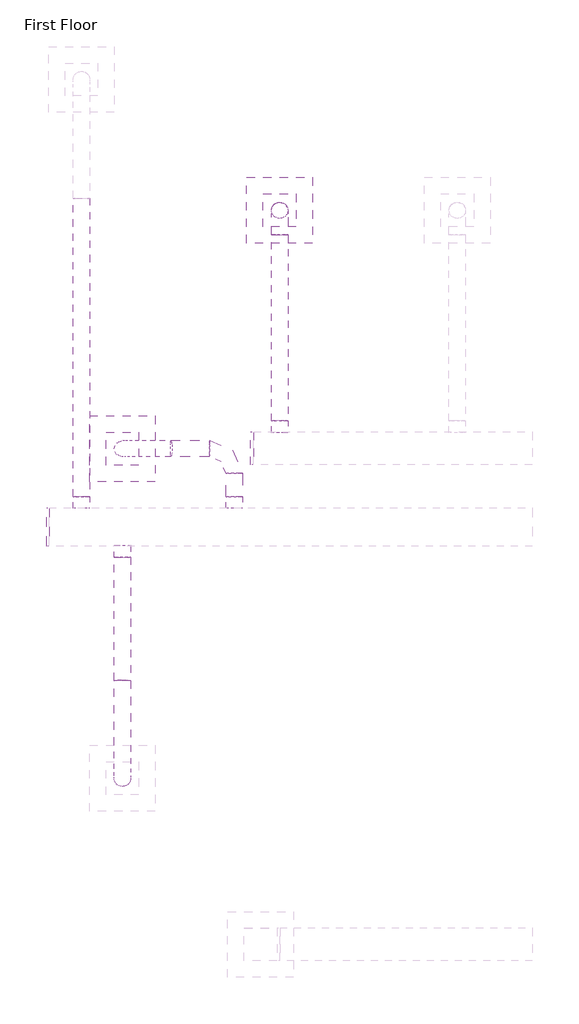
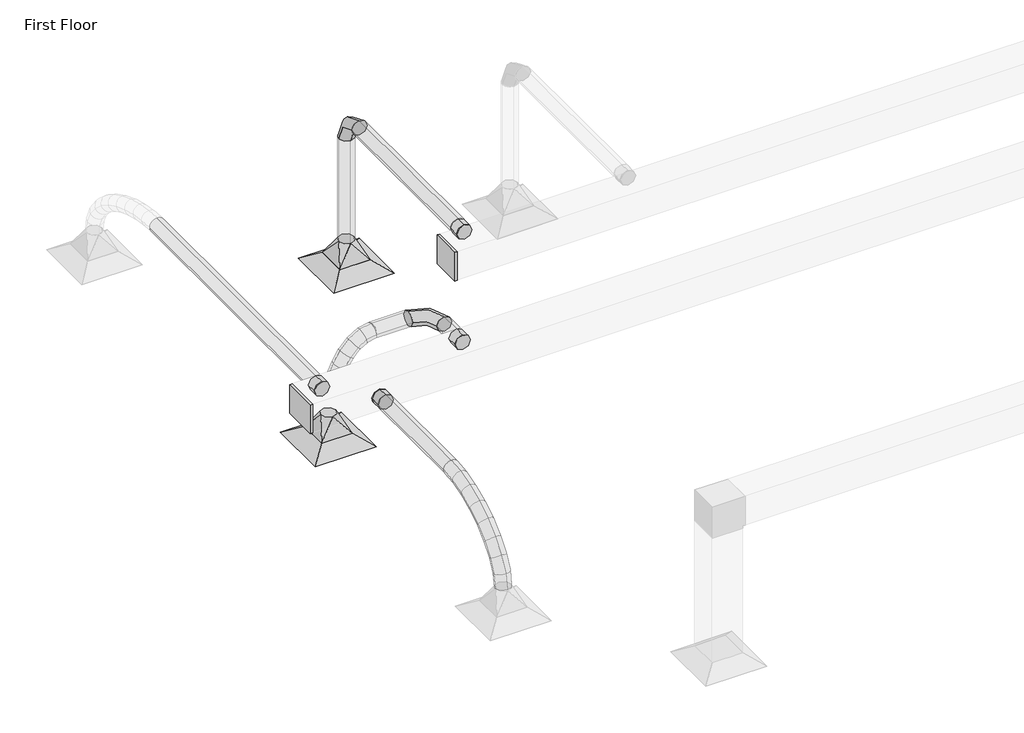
# One storey, part 42 of 61: 10 duct fittings, 8 duct segments, 2 air terminals.
"""IFC4 building model written with IfcOpenShell, lengths in millimetres."""

from ifc_helpers import new_model, si_unit, point, frame, frame_2d, origin, place, context, project, spatial, circle_curve, ellipse_curve, trimmed, segment, composite_curve, outline, extrude, transform, mapped, element, save
from ifc_brep_helpers import plane_surface, cylinder_surface, advanced_brep
from components import m_exhaust_grill_er_600_x_600_face_300_x_300_connection_ff221211, m_rectangular_endcap_standard_7e805889, m_rectangular_endcap_standard_7b60dd9d, m_rectangular_to_round_transition_angle_45_degree_8f201c83, m_round_elbow_1_5_d_2e586196, m_round_takeoff_standard_d02f3bf7, m_round_takeoff_standard_2721f8a4

model = new_model("IFC4")

# Units and contexts
model_context = context("Model", 3, world=origin())
ifc_project = project(units=[si_unit("LENGTHUNIT", "METRE", prefix="MILLI")], contexts=[model_context])

# Site, building, storey
site = spatial("IfcSite", under=ifc_project)
building = spatial("IfcBuilding", under=site)
storey = spatial("IfcBuildingStorey", under=building, Name="First Floor", Elevation=0.0)

# Air terminals
placement = place(None, origin())
m_exhaust_grill_er_600_x_600_face_300_x_300_connection_shape = m_exhaust_grill_er_600_x_600_face_300_x_300_connection_ff221211(model_context)
element("IfcAirTerminal", 1, ObjectType="M_Return Register : RR-600 x 600 Face 300 x 300 Connection", at=placement, inside=storey, context=model_context, shape_type="MappedRepresentation", body=[
    mapped(m_exhaust_grill_er_600_x_600_face_300_x_300_connection_shape, transform((-49349.7806893, 53861.7582569, 2680.0), x_axis=(1.0, 0.0, 0.0), y_axis=(0.0, 1.0, 0.0), z_axis=(0.0, 0.0, 1.0))),
])
element("IfcAirTerminal", 2, ObjectType="M_Supply Diffuser : SD-600 x 600 Face 300 x 300 Connection", at=placement, inside=storey, context=model_context, shape_type="MappedRepresentation", body=[
    mapped(m_exhaust_grill_er_600_x_600_face_300_x_300_connection_shape, transform((-50782.0764133, 51691.5172332, 2680.0), x_axis=(1.0, 0.0, 0.0), y_axis=(0.0, 1.0, 0.0), z_axis=(0.0, 0.0, 1.0))),
])

# Duct fittings
m_rectangular_endcap_standard_shape = m_rectangular_endcap_standard_7e805889(model_context)
element("IfcDuctFitting", 3, ObjectType="M_Rectangular Endcap : Standard", at=placement, inside=storey, context=model_context, shape_type="MappedRepresentation", body=[
    mapped(m_rectangular_endcap_standard_shape, transform((-51448.4542232, 50980.7449461, 3669.05), x_axis=(-1.0, 0.0, 0.0), y_axis=(0.0, -1.0, 0.0), z_axis=(0.0, 0.0, 1.0))),
])
m_rectangular_endcap_standard_2_shape = m_rectangular_endcap_standard_7b60dd9d(model_context)
element("IfcDuctFitting", 4, ObjectType="M_Rectangular Endcap : Standard", at=placement, inside=storey, context=model_context, shape_type="MappedRepresentation", body=[
    mapped(m_rectangular_endcap_standard_2_shape, transform((-49588.4336683, 51694.4273177, 4167.610768), x_axis=(-1.0, 0.0, 0.0), y_axis=(0.0, -1.0, 0.0), z_axis=(0.0, 0.0, 1.0))),
])
m_rectangular_to_round_transition_angle_45_degree_shape = m_rectangular_to_round_transition_angle_45_degree_8f201c83(model_context)
element("IfcDuctFitting", 5, ObjectType="M_Rectangular to Round Transition - Angle : 45 Degree", at=placement, inside=storey, context=model_context, shape_type="MappedRepresentation", body=[
    mapped(m_rectangular_to_round_transition_angle_45_degree_shape, transform((-50782.0764133, 51691.5172332, 2781.6), x_axis=(0.0, 0.0, 1.0), y_axis=(1.0, 0.0, 0.0), z_axis=(0.0, 1.0, 0.0))),
])
element("IfcDuctFitting", 6, ObjectType="M_Rectangular to Round Transition - Angle : 45 Degree", at=placement, inside=storey, context=model_context, shape_type="MappedRepresentation", body=[
    mapped(m_rectangular_to_round_transition_angle_45_degree_shape, transform((-49349.7806893, 53861.7582569, 2781.6), x_axis=(0.0, 0.0, 1.0), y_axis=(1.0, 0.0, 0.0), z_axis=(0.0, 1.0, 0.0))),
])
m_round_elbow_1_5_d_shape = m_round_elbow_1_5_d_2e586196(model_context)
element("IfcDuctFitting", 7, ObjectType="M_Round Elbow : 1.5 D", at=placement, inside=storey, context=model_context, shape_type="MappedRepresentation", body=[
    mapped(m_round_elbow_1_5_d_shape, transform((-49763.8011509, 51691.5172332, 3669.1), x_axis=(0.0, 1.0, 0.0), y_axis=(-1.0, 0.0, 0.0), z_axis=(0.0, 0.0, 1.0))),
])
element("IfcDuctFitting", 8, ObjectType="M_Round Elbow : 1.5 D", at=placement, inside=storey, context=model_context, shape_type="MappedRepresentation", body=[
    mapped(m_round_elbow_1_5_d_shape, transform((-49349.7806893, 53861.7582569, 4259.5), x_axis=(0.0, 0.0, 1.0), y_axis=(0.0, -1.0, 0.0), z_axis=(1.0, 0.0, 0.0))),
])
m_round_takeoff_standard_shape = m_round_takeoff_standard_d02f3bf7(model_context)
element("IfcDuctFitting", 9, ObjectType="M_Round Takeoff : Standard", at=placement, inside=storey, context=model_context, shape_type="MappedRepresentation", body=[
    mapped(m_round_takeoff_standard_shape, transform((-51155.4342475, 51155.7449461, 3669.1), x_axis=(0.0, 1.0, 0.0), y_axis=(1.0, 0.0, 0.0), z_axis=(0.0, 0.0, -1.0))),
])
element("IfcDuctFitting", 10, ObjectType="M_Round Takeoff : Standard", at=placement, inside=storey, context=model_context, shape_type="MappedRepresentation", body=[
    mapped(m_round_takeoff_standard_shape, transform((-49763.8011509, 51155.7449461, 3669.1), x_axis=(0.0, 1.0, 0.0), y_axis=(1.0, 0.0, 0.0), z_axis=(0.0, 0.0, -1.0))),
])
m_round_takeoff_standard_2_shape = m_round_takeoff_standard_2721f8a4(model_context)
element("IfcDuctFitting", 11, ObjectType="M_Round Takeoff : Standard", at=placement, inside=storey, context=model_context, shape_type="MappedRepresentation", body=[
    mapped(m_round_takeoff_standard_2_shape, transform((-50782.0764133, 50805.7449461, 3669.1), x_axis=(0.0, -1.0, 0.0), y_axis=(-1.0, 0.0, 0.0), z_axis=(0.0, 0.0, -1.0))),
])
element("IfcDuctFitting", 12, ObjectType="M_Round Takeoff : Standard", at=placement, inside=storey, context=model_context, shape_type="MappedRepresentation", body=[
    mapped(m_round_takeoff_standard_2_shape, transform((-49349.7806893, 51844.4273177, 4259.5), x_axis=(0.0, 1.0, 0.0), y_axis=(1.0, 0.0, 0.0), z_axis=(0.0, 0.0, -1.0))),
])

# Duct segments
element("IfcDuctSegment", 13, ObjectType="Flex - Round", at=placement, inside=storey, context=model_context, shape_type="AdvancedBrep", body=[
    advanced_brep(
    [(-50707.0764133, 49580.7449461, 3669.1), (-50782.0764133, 49588.2770975, 3594.4791806), (-50857.0764133, 49580.7449461, 3669.1), (-50782.0764133, 49573.2127946, 3743.7208194), (-50707.0764133, 49433.8475719, 3654.2723249), (-50782.0764133, 49447.7887917, 3580.2984305), (-50857.0764133, 49433.8475719, 3654.2723249), (-50782.0764133, 49419.9063522, 3728.2462194), (-50707.0764133, 48691.5172332, 2962.6660172), (-50782.0764133, 48617.4956764, 2974.7411621), (-50857.0764133, 48691.5172332, 2962.6660172), (-50782.0764133, 48765.53879, 2950.5908722), (-50707.0764133, 49282.0977547, 3611.9548106), (-50782.0764133, 49307.5990035, 3541.2045885), (-50857.0764133, 49282.0977547, 3611.9548106), (-50782.0764133, 49256.5965059, 3682.7050327), (-50707.0764133, 49133.0279887, 3545.3957234), (-50782.0764133, 49168.4976384, 3479.0963547), (-50857.0764133, 49133.0279887, 3545.3957234), (-50782.0764133, 49097.558339, 3611.6950921), (-50707.0764133, 48994.1707685, 3457.8433297), (-50782.0764133, 49039.0382946, 3397.4695194), (-50857.0764133, 48994.1707685, 3457.8433297), (-50782.0764133, 48949.3032424, 3518.21714), (-50707.0764133, 48873.0585884, 3352.5458959), (-50782.0764133, 48927.3864324, 3300.3970816), (-50857.0764133, 48873.0585884, 3352.5458959), (-50782.0764133, 48818.7307444, 3404.6947101), (-50707.0764133, 48777.2239429, 3232.7516883), (-50782.0764133, 48841.1168175, 3192.5592521), (-50857.0764133, 48777.2239429, 3232.7516883), (-50782.0764133, 48713.3310683, 3272.9441244), (-50707.0764133, 48714.1993264, 3101.7089732), (-50782.0764133, 48786.4786729, 3078.9539467), (-50857.0764133, 48714.1993264, 3101.7089732), (-50782.0764133, 48641.9199798, 3124.4639998)],
    [
        (0, 1, circle_curve(frame((-50782.0764133, 49580.7449461, 3669.1), z_axis=(0.0, 0.9949442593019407, 0.1004286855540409), x_axis=(1.0, 0.0, 0.0)), 75.0)),
        (1, 2, circle_curve(frame((-50782.0764133, 49580.7449461, 3669.1), z_axis=(0.0, 0.9949442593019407, 0.1004286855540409), x_axis=(1.0, 0.0, 0.0)), 75.0)),
        (2, 3, circle_curve(frame((-50782.0764133, 49580.7449461, 3669.1), z_axis=(0.0, 0.9949442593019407, 0.1004286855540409), x_axis=(1.0, 0.0, 0.0)), 75.0)),
        (3, 0, circle_curve(frame((-50782.0764133, 49580.7449461, 3669.1), z_axis=(0.0, 0.9949442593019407, 0.1004286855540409), x_axis=(1.0, 0.0, 0.0)), 75.0)),
        (0, 4),
        (4, 5, ellipse_curve(frame((-50782.0764133, 49433.8475719, 3654.2723249), z_axis=(0.0, 0.9827006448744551, 0.18520108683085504), x_axis=(0.0, 0.1852010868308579, -0.9827006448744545)), 75.2761228, 75.0)),
        (5, 1),
        (5, 6, ellipse_curve(frame((-50782.0764133, 49433.8475719, 3654.2723249), z_axis=(0.0, 0.9827006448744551, 0.18520108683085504), x_axis=(0.0, 0.1852010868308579, -0.9827006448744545)), 75.2761228, 75.0)),
        (6, 2),
        (6, 7, ellipse_curve(frame((-50782.0764133, 49433.8475719, 3654.2723249), z_axis=(0.0, 0.9827006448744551, 0.18520108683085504), x_axis=(0.0, 0.1852010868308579, -0.9827006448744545)), 75.2761228, 75.0)),
        (7, 3),
        (7, 4, ellipse_curve(frame((-50782.0764133, 49433.8475719, 3654.2723249), z_axis=(0.0, 0.9827006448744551, 0.18520108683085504), x_axis=(0.0, 0.1852010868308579, -0.9827006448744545)), 75.2761228, 75.0)),
        (8, 9, circle_curve(frame((-50782.0764133, 48691.5172332, 2962.6660172), z_axis=(0.0, -0.16100193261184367, -0.986954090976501), x_axis=(1.0, 0.0, 0.0)), 75.0)),
        (9, 10, circle_curve(frame((-50782.0764133, 48691.5172332, 2962.6660172), z_axis=(0.0, -0.16100193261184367, -0.986954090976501), x_axis=(1.0, 0.0, 0.0)), 75.0)),
        (10, 11, circle_curve(frame((-50782.0764133, 48691.5172332, 2962.6660172), z_axis=(0.0, -0.16100193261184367, -0.986954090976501), x_axis=(1.0, 0.0, 0.0)), 75.0)),
        (11, 8, circle_curve(frame((-50782.0764133, 48691.5172332, 2962.6660172), z_axis=(0.0, -0.16100193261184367, -0.986954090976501), x_axis=(1.0, 0.0, 0.0)), 75.0)),
        (4, 12),
        (12, 13, ellipse_curve(frame((-50782.0764133, 49282.0977547, 3611.9548106), z_axis=(0.0, 0.9407552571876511, 0.33908634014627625), x_axis=(0.0, 0.3390863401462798, -0.9407552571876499)), 75.2057685, 75.0)),
        (13, 5),
        (13, 14, ellipse_curve(frame((-50782.0764133, 49282.0977547, 3611.9548106), z_axis=(0.0, 0.9407552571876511, 0.33908634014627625), x_axis=(0.0, 0.3390863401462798, -0.9407552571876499)), 75.2057685, 75.0)),
        (14, 6),
        (14, 15, ellipse_curve(frame((-50782.0764133, 49282.0977547, 3611.9548106), z_axis=(0.0, 0.9407552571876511, 0.33908634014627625), x_axis=(0.0, 0.3390863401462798, -0.9407552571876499)), 75.2057685, 75.0)),
        (15, 7),
        (15, 12, ellipse_curve(frame((-50782.0764133, 49282.0977547, 3611.9548106), z_axis=(0.0, 0.9407552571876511, 0.33908634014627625), x_axis=(0.0, 0.3390863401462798, -0.9407552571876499)), 75.2057685, 75.0)),
        (12, 16),
        (16, 17, ellipse_curve(frame((-50782.0764133, 49133.0279887, 3545.3957234), z_axis=(0.0, 0.8817448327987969, 0.47172666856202), x_axis=(0.0, 0.47172666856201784, -0.881744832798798)), 75.1911055, 75.0)),
        (17, 13),
        (17, 18, ellipse_curve(frame((-50782.0764133, 49133.0279887, 3545.3957234), z_axis=(0.0, 0.8817448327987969, 0.47172666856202), x_axis=(0.0, 0.47172666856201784, -0.881744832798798)), 75.1911055, 75.0)),
        (18, 14),
        (18, 19, ellipse_curve(frame((-50782.0764133, 49133.0279887, 3545.3957234), z_axis=(0.0, 0.8817448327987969, 0.47172666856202), x_axis=(0.0, 0.47172666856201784, -0.881744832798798)), 75.1911055, 75.0)),
        (19, 15),
        (19, 16, ellipse_curve(frame((-50782.0764133, 49133.0279887, 3545.3957234), z_axis=(0.0, 0.8817448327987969, 0.47172666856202), x_axis=(0.0, 0.47172666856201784, -0.881744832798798)), 75.1911055, 75.0)),
        (16, 20),
        (20, 21, ellipse_curve(frame((-50782.0764133, 48994.1707685, 3457.8433297), z_axis=(0.0, 0.8026266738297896, 0.5964817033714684), x_axis=(0.0, 0.5964817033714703, -0.8026266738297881)), 75.2202889, 75.0)),
        (21, 17),
        (21, 22, ellipse_curve(frame((-50782.0764133, 48994.1707685, 3457.8433297), z_axis=(0.0, 0.8026266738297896, 0.5964817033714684), x_axis=(0.0, 0.5964817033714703, -0.8026266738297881)), 75.2202889, 75.0)),
        (22, 18),
        (22, 23, ellipse_curve(frame((-50782.0764133, 48994.1707685, 3457.8433297), z_axis=(0.0, 0.8026266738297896, 0.5964817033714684), x_axis=(0.0, 0.5964817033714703, -0.8026266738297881)), 75.2202889, 75.0)),
        (23, 19),
        (23, 20, ellipse_curve(frame((-50782.0764133, 48994.1707685, 3457.8433297), z_axis=(0.0, 0.8026266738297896, 0.5964817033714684), x_axis=(0.0, 0.5964817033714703, -0.8026266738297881)), 75.2202889, 75.0)),
        (20, 24),
        (24, 25, ellipse_curve(frame((-50782.0764133, 48873.0585884, 3352.5458959), z_axis=(0.0, 0.6924909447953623, 0.7214265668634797), x_axis=(0.0, 0.7214265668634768, -0.6924909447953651)), 75.3061316, 75.0)),
        (25, 21),
        (25, 26, ellipse_curve(frame((-50782.0764133, 48873.0585884, 3352.5458959), z_axis=(0.0, 0.6924909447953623, 0.7214265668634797), x_axis=(0.0, 0.7214265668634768, -0.6924909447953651)), 75.3061316, 75.0)),
        (26, 22),
        (26, 27, ellipse_curve(frame((-50782.0764133, 48873.0585884, 3352.5458959), z_axis=(0.0, 0.6924909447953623, 0.7214265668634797), x_axis=(0.0, 0.7214265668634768, -0.6924909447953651)), 75.3061316, 75.0)),
        (27, 23),
        (27, 24, ellipse_curve(frame((-50782.0764133, 48873.0585884, 3352.5458959), z_axis=(0.0, 0.6924909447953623, 0.7214265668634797), x_axis=(0.0, 0.7214265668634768, -0.6924909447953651)), 75.3061316, 75.0)),
        (24, 28),
        (28, 29, ellipse_curve(frame((-50782.0764133, 48777.2239429, 3232.7516883), z_axis=(0.0, 0.5324677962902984, 0.8464502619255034), x_axis=(0.0, 0.8464502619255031, -0.5324677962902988)), 75.4833183, 75.0)),
        (29, 25),
        (29, 30, ellipse_curve(frame((-50782.0764133, 48777.2239429, 3232.7516883), z_axis=(0.0, 0.5324677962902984, 0.8464502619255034), x_axis=(0.0, 0.8464502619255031, -0.5324677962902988)), 75.4833183, 75.0)),
        (30, 26),
        (30, 31, ellipse_curve(frame((-50782.0764133, 48777.2239429, 3232.7516883), z_axis=(0.0, 0.5324677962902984, 0.8464502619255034), x_axis=(0.0, 0.8464502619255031, -0.5324677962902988)), 75.4833183, 75.0)),
        (31, 27),
        (31, 28, ellipse_curve(frame((-50782.0764133, 48777.2239429, 3232.7516883), z_axis=(0.0, 0.5324677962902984, 0.8464502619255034), x_axis=(0.0, 0.8464502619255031, -0.5324677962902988)), 75.4833183, 75.0)),
        (28, 32),
        (32, 33, ellipse_curve(frame((-50782.0764133, 48714.1993264, 3101.7089732), z_axis=(0.0, 0.30029088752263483, 0.9538476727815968), x_axis=(0.0, 0.9538476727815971, -0.3002908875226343)), 75.7766136, 75.0)),
        (33, 29),
        (33, 34, ellipse_curve(frame((-50782.0764133, 48714.1993264, 3101.7089732), z_axis=(0.0, 0.30029088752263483, 0.9538476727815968), x_axis=(0.0, 0.9538476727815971, -0.3002908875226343)), 75.7766136, 75.0)),
        (34, 30),
        (34, 35, ellipse_curve(frame((-50782.0764133, 48714.1993264, 3101.7089732), z_axis=(0.0, 0.30029088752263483, 0.9538476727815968), x_axis=(0.0, 0.9538476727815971, -0.3002908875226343)), 75.7766136, 75.0)),
        (35, 31),
        (35, 32, ellipse_curve(frame((-50782.0764133, 48714.1993264, 3101.7089732), z_axis=(0.0, 0.30029088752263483, 0.9538476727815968), x_axis=(0.0, 0.9538476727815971, -0.3002908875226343)), 75.7766136, 75.0)),
        (32, 8),
        (11, 33),
        (10, 34),
        (9, 35),
    ],
    [
        plane_surface(frame((-50782.0764133, 49588.2770975, 3594.4791806), z_axis=(0.0, 0.9949442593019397, 0.10042868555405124), x_axis=(1.0, 0.0, 0.0))),
        cylinder_surface(frame((-50782.0764133, 49580.7449461, 3669.1), z_axis=(0.0, 0.9949442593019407, 0.1004286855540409), x_axis=(1.0, 0.0, 0.0)), 75.0),
        plane_surface(frame((-50782.0764133, 48765.53879, 2950.5908722), z_axis=(0.0, -0.1610019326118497, -0.9869540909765), x_axis=(1.0, 0.0, 0.0))),
        cylinder_surface(frame((-50782.0764133, 49433.8475719, 3654.2723249), z_axis=(0.0, 0.9632476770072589, 0.26861480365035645), x_axis=(1.0, 0.0, 0.0)), 75.0),
        cylinder_surface(frame((-50782.0764133, 49282.0977547, 3611.9548106), z_axis=(0.0, 0.9131148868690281, 0.4077023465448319), x_axis=(1.0, 0.0, 0.0)), 75.0),
        cylinder_surface(frame((-50782.0764133, 49133.0279887, 3545.3957234), z_axis=(0.0, 0.8458926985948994, 0.5333531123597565), x_axis=(1.0, 0.0, 0.0)), 75.0),
        cylinder_surface(frame((-50782.0764133, 48994.1707685, 3457.8433297), z_axis=(0.0, 0.7546595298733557, 0.6561166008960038), x_axis=(1.0, 0.0, 0.0)), 75.0),
        cylinder_surface(frame((-50782.0764133, 48873.0585884, 3352.5458959), z_axis=(0.0, 0.6246921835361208, 0.7808711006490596), x_axis=(1.0, 0.0, 0.0)), 75.0),
        cylinder_surface(frame((-50782.0764133, 48777.2239429, 3232.7516883), z_axis=(0.0, 0.43342464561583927, 0.9011898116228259), x_axis=(1.0, 0.0, 0.0)), 75.0),
        cylinder_surface(frame((-50782.0764133, 48714.1993264, 3101.7089732), z_axis=(0.0, 0.16100193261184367, 0.986954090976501), x_axis=(1.0, 0.0, 0.0)), 75.0),
    ],
    [
        (0, [[1, 2, 3, 4]]),
        (1, [[-1, 5, 6, 7]]),
        (1, [[-2, -7, 8, 9]]),
        (1, [[-3, -9, 10, 11]]),
        (1, [[-4, -11, 12, -5]]),
        (2, [[13, 14, 15, 16]]),
        (3, [[-6, 17, 18, 19]]),
        (3, [[-8, -19, 20, 21]]),
        (3, [[-10, -21, 22, 23]]),
        (3, [[-12, -23, 24, -17]]),
        (4, [[-18, 25, 26, 27]]),
        (4, [[-20, -27, 28, 29]]),
        (4, [[-22, -29, 30, 31]]),
        (4, [[-24, -31, 32, -25]]),
        (5, [[-26, 33, 34, 35]]),
        (5, [[-28, -35, 36, 37]]),
        (5, [[-30, -37, 38, 39]]),
        (5, [[-32, -39, 40, -33]]),
        (6, [[-34, 41, 42, 43]]),
        (6, [[-36, -43, 44, 45]]),
        (6, [[-38, -45, 46, 47]]),
        (6, [[-40, -47, 48, -41]]),
        (7, [[-42, 49, 50, 51]]),
        (7, [[-44, -51, 52, 53]]),
        (7, [[-46, -53, 54, 55]]),
        (7, [[-48, -55, 56, -49]]),
        (8, [[-50, 57, 58, 59]]),
        (8, [[-52, -59, 60, 61]]),
        (8, [[-54, -61, 62, 63]]),
        (8, [[-56, -63, 64, -57]]),
        (9, [[-58, 65, -16, 66]]),
        (9, [[-60, -66, -15, 67]]),
        (9, [[-62, -67, -14, 68]]),
        (9, [[-64, -68, -13, -65]]),
    ],
),
])
element("IfcDuctSegment", 14, ObjectType="Flex - Round", at=placement, inside=storey, context=model_context, shape_type="AdvancedBrep", body=[
    advanced_brep(
    [(-50343.8011509, 51616.5172332, 3669.1), (-50329.5895778, 51691.5172332, 3595.4587671), (-50343.8011509, 51766.5172332, 3669.1), (-50358.0127241, 51691.5172332, 3742.7412329), (-50442.1955865, 51616.5172332, 3650.111457), (-50414.8994955, 51691.5172332, 3578.9953255), (-50442.1955865, 51766.5172332, 3650.111457), (-50469.4916775, 51691.5172332, 3721.2275885), (-50782.0764133, 51616.5172332, 2962.6660172), (-50856.9039923, 51691.5172332, 2967.7486763), (-50782.0764133, 51766.5172332, 2962.6660172), (-50707.2488343, 51691.5172332, 2957.583358), (-50529.1895233, 51616.5172332, 3597.6889777), (-50481.7911309, 51691.5172332, 3538.6864775), (-50529.1895233, 51766.5172332, 3597.6889777), (-50576.5879156, 51691.5172332, 3656.6914779), (-50604.2532067, 51616.5172332, 3518.6472867), (-50544.8174203, 51691.5172332, 3472.3201035), (-50604.2532067, 51766.5172332, 3518.6472867), (-50663.6889931, 51691.5172332, 3564.97447), (-50666.8568822, 51616.5172332, 3419.8011087), (-50600.5402836, 51691.5172332, 3384.3381755), (-50666.8568822, 51766.5172332, 3419.8011087), (-50733.1734808, 51691.5172332, 3455.2640419), (-50716.4707952, 51616.5172332, 3307.9651681), (-50646.0761777, 51691.5172332, 3281.6945976), (-50716.4707952, 51766.5172332, 3307.9651681), (-50786.8654127, 51691.5172332, 3334.2357386), (-50752.5651911, 51616.5172332, 3189.9541896), (-50679.6243861, 51691.5172332, 3172.0084037), (-50752.5651911, 51766.5172332, 3189.9541896), (-50825.505996, 51691.5172332, 3207.8999755), (-50774.6103153, 51616.5172332, 3072.5828978), (-50700.0825536, 51691.5172332, 3063.0862893), (-50774.6103153, 51766.5172332, 3072.5828978), (-50849.138077, 51691.5172332, 3082.0795062)],
    [
        (0, 1, circle_curve(frame((-50343.8011509, 51691.5172332, 3669.1), z_axis=(0.9818831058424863, 0.0, 0.18948764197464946), x_axis=(0.0, -1.0, 0.0)), 75.0)),
        (1, 2, circle_curve(frame((-50343.8011509, 51691.5172332, 3669.1), z_axis=(0.9818831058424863, 0.0, 0.18948764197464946), x_axis=(0.0, -1.0, 0.0)), 75.0)),
        (2, 3, circle_curve(frame((-50343.8011509, 51691.5172332, 3669.1), z_axis=(0.9818831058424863, 0.0, 0.18948764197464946), x_axis=(0.0, -1.0, 0.0)), 75.0)),
        (3, 0, circle_curve(frame((-50343.8011509, 51691.5172332, 3669.1), z_axis=(0.9818831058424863, 0.0, 0.18948764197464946), x_axis=(0.0, -1.0, 0.0)), 75.0)),
        (0, 4),
        (4, 5, ellipse_curve(frame((-50442.1955865, 51691.5172332, 3650.111457), z_axis=(0.9335928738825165, 0.0, 0.35833552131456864), x_axis=(0.3583355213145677, 0.0, -0.9335928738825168)), 76.1746726, 75.0)),
        (5, 1),
        (5, 6, ellipse_curve(frame((-50442.1955865, 51691.5172332, 3650.111457), z_axis=(0.9335928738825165, 0.0, 0.35833552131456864), x_axis=(0.3583355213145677, 0.0, -0.9335928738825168)), 76.1746726, 75.0)),
        (6, 2),
        (6, 7, ellipse_curve(frame((-50442.1955865, 51691.5172332, 3650.111457), z_axis=(0.9335928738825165, 0.0, 0.35833552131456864), x_axis=(0.3583355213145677, 0.0, -0.9335928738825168)), 76.1746726, 75.0)),
        (7, 3),
        (7, 4, ellipse_curve(frame((-50442.1955865, 51691.5172332, 3650.111457), z_axis=(0.9335928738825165, 0.0, 0.35833552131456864), x_axis=(0.3583355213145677, 0.0, -0.9335928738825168)), 76.1746726, 75.0)),
        (8, 9, circle_curve(frame((-50782.0764133, 51691.5172332, 2962.6660172), z_axis=(-0.0677687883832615, 0.0, -0.9977010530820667), x_axis=(0.0, -1.0, 0.0)), 75.0)),
        (9, 10, circle_curve(frame((-50782.0764133, 51691.5172332, 2962.6660172), z_axis=(-0.0677687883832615, 0.0, -0.9977010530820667), x_axis=(0.0, -1.0, 0.0)), 75.0)),
        (10, 11, circle_curve(frame((-50782.0764133, 51691.5172332, 2962.6660172), z_axis=(-0.0677687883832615, 0.0, -0.9977010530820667), x_axis=(0.0, -1.0, 0.0)), 75.0)),
        (11, 8, circle_curve(frame((-50782.0764133, 51691.5172332, 2962.6660172), z_axis=(-0.0677687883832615, 0.0, -0.9977010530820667), x_axis=(0.0, -1.0, 0.0)), 75.0)),
        (4, 12),
        (12, 13, ellipse_curve(frame((-50529.1895233, 51691.5172332, 3597.6889777), z_axis=(0.779601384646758, 0.0, 0.6262760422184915), x_axis=(0.6262760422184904, 0.0, -0.7796013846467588)), 75.6829084, 75.0)),
        (13, 5),
        (13, 14, ellipse_curve(frame((-50529.1895233, 51691.5172332, 3597.6889777), z_axis=(0.779601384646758, 0.0, 0.6262760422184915), x_axis=(0.6262760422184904, 0.0, -0.7796013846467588)), 75.6829084, 75.0)),
        (14, 6),
        (14, 15, ellipse_curve(frame((-50529.1895233, 51691.5172332, 3597.6889777), z_axis=(0.779601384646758, 0.0, 0.6262760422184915), x_axis=(0.6262760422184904, 0.0, -0.7796013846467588)), 75.6829084, 75.0)),
        (15, 7),
        (15, 12, ellipse_curve(frame((-50529.1895233, 51691.5172332, 3597.6889777), z_axis=(0.779601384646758, 0.0, 0.6262760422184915), x_axis=(0.6262760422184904, 0.0, -0.7796013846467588)), 75.6829084, 75.0)),
        (12, 16),
        (16, 17, ellipse_curve(frame((-50604.2532067, 51691.5172332, 3518.6472867), z_axis=(0.6147617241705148, 0.0, 0.7887128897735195), x_axis=(0.7887128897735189, 0.0, -0.6147617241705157)), 75.3579499, 75.0)),
        (17, 13),
        (17, 18, ellipse_curve(frame((-50604.2532067, 51691.5172332, 3518.6472867), z_axis=(0.6147617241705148, 0.0, 0.7887128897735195), x_axis=(0.7887128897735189, 0.0, -0.6147617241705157)), 75.3579499, 75.0)),
        (18, 14),
        (18, 19, ellipse_curve(frame((-50604.2532067, 51691.5172332, 3518.6472867), z_axis=(0.6147617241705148, 0.0, 0.7887128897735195), x_axis=(0.7887128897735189, 0.0, -0.6147617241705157)), 75.3579499, 75.0)),
        (19, 15),
        (19, 16, ellipse_curve(frame((-50604.2532067, 51691.5172332, 3518.6472867), z_axis=(0.6147617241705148, 0.0, 0.7887128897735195), x_axis=(0.7887128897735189, 0.0, -0.6147617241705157)), 75.3579499, 75.0)),
        (16, 20),
        (20, 21, ellipse_curve(frame((-50666.8568822, 51691.5172332, 3419.8011087), z_axis=(0.4715619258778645, 0.0, 0.8818329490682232), x_axis=(0.8818329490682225, 0.0, -0.4715619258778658)), 75.2031308, 75.0)),
        (21, 17),
        (21, 22, ellipse_curve(frame((-50666.8568822, 51691.5172332, 3419.8011087), z_axis=(0.4715619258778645, 0.0, 0.8818329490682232), x_axis=(0.8818329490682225, 0.0, -0.4715619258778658)), 75.2031308, 75.0)),
        (22, 18),
        (22, 23, ellipse_curve(frame((-50666.8568822, 51691.5172332, 3419.8011087), z_axis=(0.4715619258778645, 0.0, 0.8818329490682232), x_axis=(0.8818329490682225, 0.0, -0.4715619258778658)), 75.2031308, 75.0)),
        (23, 19),
        (23, 20, ellipse_curve(frame((-50666.8568822, 51691.5172332, 3419.8011087), z_axis=(0.4715619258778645, 0.0, 0.8818329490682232), x_axis=(0.8818329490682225, 0.0, -0.4715619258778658)), 75.2031308, 75.0)),
        (20, 24),
        (24, 25, ellipse_curve(frame((-50716.4707952, 51691.5172332, 3307.9651681), z_axis=(0.3496363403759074, 0.0, 0.9368854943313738), x_axis=(0.9368854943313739, 0.0, -0.3496363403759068)), 75.1368422, 75.0)),
        (25, 21),
        (25, 26, ellipse_curve(frame((-50716.4707952, 51691.5172332, 3307.9651681), z_axis=(0.3496363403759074, 0.0, 0.9368854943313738), x_axis=(0.9368854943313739, 0.0, -0.3496363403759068)), 75.1368422, 75.0)),
        (26, 22),
        (26, 27, ellipse_curve(frame((-50716.4707952, 51691.5172332, 3307.9651681), z_axis=(0.3496363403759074, 0.0, 0.9368854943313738), x_axis=(0.9368854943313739, 0.0, -0.3496363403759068)), 75.1368422, 75.0)),
        (27, 23),
        (27, 24, ellipse_curve(frame((-50716.4707952, 51691.5172332, 3307.9651681), z_axis=(0.3496363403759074, 0.0, 0.9368854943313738), x_axis=(0.9368854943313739, 0.0, -0.3496363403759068)), 75.1368422, 75.0)),
        (24, 28),
        (28, 29, ellipse_curve(frame((-50752.5651911, 51691.5172332, 3189.9541896), z_axis=(0.23890766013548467, 0.0, 0.9710422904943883), x_axis=(0.9710422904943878, 0.0, -0.23890766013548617)), 75.115992, 75.0)),
        (29, 25),
        (29, 30, ellipse_curve(frame((-50752.5651911, 51691.5172332, 3189.9541896), z_axis=(0.23890766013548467, 0.0, 0.9710422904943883), x_axis=(0.9710422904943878, 0.0, -0.23890766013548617)), 75.115992, 75.0)),
        (30, 26),
        (30, 31, ellipse_curve(frame((-50752.5651911, 51691.5172332, 3189.9541896), z_axis=(0.23890766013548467, 0.0, 0.9710422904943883), x_axis=(0.9710422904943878, 0.0, -0.23890766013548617)), 75.115992, 75.0)),
        (31, 27),
        (31, 28, ellipse_curve(frame((-50752.5651911, 51691.5172332, 3189.9541896), z_axis=(0.23890766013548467, 0.0, 0.9710422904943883), x_axis=(0.9710422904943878, 0.0, -0.23890766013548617)), 75.115992, 75.0)),
        (28, 32),
        (32, 33, ellipse_curve(frame((-50774.6103153, 51691.5172332, 3072.5828978), z_axis=(0.12640172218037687, 0.0, 0.9919791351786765), x_axis=(0.9919791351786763, 0.0, -0.12640172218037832)), 75.1303723, 75.0)),
        (33, 29),
        (33, 34, ellipse_curve(frame((-50774.6103153, 51691.5172332, 3072.5828978), z_axis=(0.12640172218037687, 0.0, 0.9919791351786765), x_axis=(0.9919791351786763, 0.0, -0.12640172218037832)), 75.1303723, 75.0)),
        (34, 30),
        (34, 35, ellipse_curve(frame((-50774.6103153, 51691.5172332, 3072.5828978), z_axis=(0.12640172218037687, 0.0, 0.9919791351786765), x_axis=(0.9919791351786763, 0.0, -0.12640172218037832)), 75.1303723, 75.0)),
        (35, 31),
        (35, 32, ellipse_curve(frame((-50774.6103153, 51691.5172332, 3072.5828978), z_axis=(0.12640172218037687, 0.0, 0.9919791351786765), x_axis=(0.9919791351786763, 0.0, -0.12640172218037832)), 75.1303723, 75.0)),
        (32, 8),
        (11, 33),
        (10, 34),
        (9, 35),
    ],
    [
        plane_surface(frame((-50343.8011509, 51766.5172332, 3669.1), z_axis=(0.9818831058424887, 0.0, 0.18948764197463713), x_axis=(0.18948764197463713, 0.0, -0.9818831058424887))),
        cylinder_surface(frame((-50343.8011509, 51691.5172332, 3669.1), z_axis=(0.9818831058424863, 0.0, 0.18948764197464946), x_axis=(0.0, -1.0, 0.0)), 75.0),
        plane_surface(frame((-50782.0764133, 51766.5172332, 2962.6660172), z_axis=(-0.06776878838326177, 0.0, -0.9977010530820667), x_axis=(0.9977010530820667, 0.0, -0.06776878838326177))),
        cylinder_surface(frame((-50442.1955865, 51691.5172332, 3650.111457), z_axis=(0.8565091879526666, 0.0, 0.5161317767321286), x_axis=(0.0, -1.0, 0.0)), 75.0),
        cylinder_surface(frame((-50529.1895233, 51691.5172332, 3597.6889777), z_axis=(0.6886244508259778, 0.0, 0.7251181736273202), x_axis=(0.0, -1.0, 0.0)), 75.0),
        cylinder_surface(frame((-50604.2532067, 51691.5172332, 3518.6472867), z_axis=(0.5350587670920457, 0.0, 0.8448148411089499), x_axis=(0.0, -1.0, 0.0)), 75.0),
        cylinder_surface(frame((-50666.8568822, 51691.5172332, 3419.8011087), z_axis=(0.4055176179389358, 0.0, 0.9140872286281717), x_axis=(0.0, -1.0, 0.0)), 75.0),
        cylinder_surface(frame((-50716.4707952, 51691.5172332, 3307.9651681), z_axis=(0.29248152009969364, 0.0, 0.9562711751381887), x_axis=(0.0, -1.0, 0.0)), 75.0),
        cylinder_surface(frame((-50752.5651911, 51691.5172332, 3189.9541896), z_axis=(0.18459597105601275, 0.0, 0.9828144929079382), x_axis=(0.0, -1.0, 0.0)), 75.0),
        cylinder_surface(frame((-50774.6103153, 51691.5172332, 3072.5828978), z_axis=(0.0677687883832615, 0.0, 0.9977010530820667), x_axis=(0.0, -1.0, 0.0)), 75.0),
    ],
    [
        (0, [[1, 2, 3, 4]]),
        (1, [[-1, 5, 6, 7]]),
        (1, [[-2, -7, 8, 9]]),
        (1, [[-3, -9, 10, 11]]),
        (1, [[-4, -11, 12, -5]]),
        (2, [[13, 14, 15, 16]]),
        (3, [[-6, 17, 18, 19]]),
        (3, [[-8, -19, 20, 21]]),
        (3, [[-10, -21, 22, 23]]),
        (3, [[-12, -23, 24, -17]]),
        (4, [[-18, 25, 26, 27]]),
        (4, [[-20, -27, 28, 29]]),
        (4, [[-22, -29, 30, 31]]),
        (4, [[-24, -31, 32, -25]]),
        (5, [[-26, 33, 34, 35]]),
        (5, [[-28, -35, 36, 37]]),
        (5, [[-30, -37, 38, 39]]),
        (5, [[-32, -39, 40, -33]]),
        (6, [[-34, 41, 42, 43]]),
        (6, [[-36, -43, 44, 45]]),
        (6, [[-38, -45, 46, 47]]),
        (6, [[-40, -47, 48, -41]]),
        (7, [[-42, 49, 50, 51]]),
        (7, [[-44, -51, 52, 53]]),
        (7, [[-46, -53, 54, 55]]),
        (7, [[-48, -55, 56, -49]]),
        (8, [[-50, 57, 58, 59]]),
        (8, [[-52, -59, 60, 61]]),
        (8, [[-54, -61, 62, 63]]),
        (8, [[-56, -63, 64, -57]]),
        (9, [[-58, 65, -16, 66]]),
        (9, [[-60, -66, -15, 67]]),
        (9, [[-62, -67, -14, 68]]),
        (9, [[-64, -68, -13, -65]]),
    ],
),
])
element("IfcDuctSegment", 15, ObjectType="Taps", at=placement, inside=storey, context=model_context, shape_type="SweptSolid", body=[
    extrude(outline(composite_curve([segment(trimmed(circle_curve(frame_2d((3669.1, -51155.4342475)), 75.0), [point((3669.1, -51080.4342475))], [point((3744.1, -51155.4342475))], False, "CARTESIAN"), True, "CONTINUOUS"), segment(trimmed(circle_curve(frame_2d((3669.1, -51155.4342475)), 75.0), [point((3744.1, -51155.4342475))], [point((3669.1, -51230.4342475))], False, "CARTESIAN"), True, "CONTINUOUS"), segment(trimmed(circle_curve(frame_2d((3669.1, -51155.4342475)), 75.0), [point((3669.1, -51230.4342475))], [point((3594.1, -51155.4342475))], False, "CARTESIAN"), True, "CONTINUOUS"), segment(trimmed(circle_curve(frame_2d((3669.1, -51155.4342475)), 75.0), [point((3594.1, -51155.4342475))], [point((3669.1, -51080.4342475))], False, "CARTESIAN"), True, "CONTINUOUS")], self_intersect=False)), frame((0.0, 51255.7449461, 0.0), z_axis=(0.0, 1.0, 0.0), x_axis=(0.0, 0.0, 1.0)), (0.0, 0.0, 1.0), 2716.2483665),
])
element("IfcDuctSegment", 16, ObjectType="Taps", at=placement, inside=storey, context=model_context, shape_type="SweptSolid", body=[
    extrude(outline(composite_curve([segment(trimmed(circle_curve(frame_2d((3669.1, -50782.0764133)), 75.0), [point((3669.1, -50857.0764133))], [point((3594.1, -50782.0764133))], False, "CARTESIAN"), True, "CONTINUOUS"), segment(trimmed(circle_curve(frame_2d((3669.1, -50782.0764133)), 75.0), [point((3594.1, -50782.0764133))], [point((3669.1, -50707.0764133))], False, "CARTESIAN"), True, "CONTINUOUS"), segment(trimmed(circle_curve(frame_2d((3669.1, -50782.0764133)), 75.0), [point((3669.1, -50707.0764133))], [point((3744.1, -50782.0764133))], False, "CARTESIAN"), True, "CONTINUOUS"), segment(trimmed(circle_curve(frame_2d((3669.1, -50782.0764133)), 75.0), [point((3744.1, -50782.0764133))], [point((3669.1, -50857.0764133))], False, "CARTESIAN"), True, "CONTINUOUS")], self_intersect=False)), frame((0.0, 49580.7449461, 0.0), z_axis=(0.0, 1.0, 0.0), x_axis=(0.0, 0.0, 1.0)), (0.0, 0.0, 1.0), 1125.0),
])
element("IfcDuctSegment", 17, ObjectType="Taps", at=placement, inside=storey, context=model_context, shape_type="SweptSolid", body=[
    extrude(outline(composite_curve([segment(trimmed(circle_curve(frame_2d((3669.1, -49763.8011509)), 75.0), [point((3669.1, -49688.8011509))], [point((3744.1, -49763.8011509))], False, "CARTESIAN"), True, "CONTINUOUS"), segment(trimmed(circle_curve(frame_2d((3669.1, -49763.8011509)), 75.0), [point((3744.1, -49763.8011509))], [point((3669.1, -49838.8011509))], False, "CARTESIAN"), True, "CONTINUOUS"), segment(trimmed(circle_curve(frame_2d((3669.1, -49763.8011509)), 75.0), [point((3669.1, -49838.8011509))], [point((3594.1, -49763.8011509))], False, "CARTESIAN"), True, "CONTINUOUS"), segment(trimmed(circle_curve(frame_2d((3669.1, -49763.8011509)), 75.0), [point((3594.1, -49763.8011509))], [point((3669.1, -49688.8011509))], False, "CARTESIAN"), True, "CONTINUOUS")], self_intersect=False)), frame((0.0, 51255.7449461, 0.0), z_axis=(0.0, 1.0, 0.0), x_axis=(0.0, 0.0, 1.0)), (0.0, 0.0, 1.0), 210.7722871),
])
element("IfcDuctSegment", 18, ObjectType="Taps", at=placement, inside=storey, context=model_context, shape_type="SweptSolid", body=[
    extrude(outline(composite_curve([segment(trimmed(circle_curve(frame_2d((51691.5172332, 3669.1)), 75.0), [point((51766.5172332, 3669.1))], [point((51691.5172332, 3594.1))], False, "CARTESIAN"), True, "CONTINUOUS"), segment(trimmed(circle_curve(frame_2d((51691.5172332, 3669.1)), 75.0), [point((51691.5172332, 3594.1))], [point((51616.5172332, 3669.1))], False, "CARTESIAN"), True, "CONTINUOUS"), segment(trimmed(circle_curve(frame_2d((51691.5172332, 3669.1)), 75.0), [point((51616.5172332, 3669.1))], [point((51691.5172332, 3744.1))], False, "CARTESIAN"), True, "CONTINUOUS"), segment(trimmed(circle_curve(frame_2d((51691.5172332, 3669.1)), 75.0), [point((51691.5172332, 3744.1))], [point((51766.5172332, 3669.1))], False, "CARTESIAN"), True, "CONTINUOUS")], self_intersect=False)), frame((-50343.8011509, 0.0, 0.0), z_axis=(1.0, 0.0, 0.0), x_axis=(0.0, 1.0, 0.0)), (0.0, 0.0, 1.0), 355.0),
])
element("IfcDuctSegment", 19, ObjectType="Taps", at=placement, inside=storey, context=model_context, shape_type="SweptSolid", body=[
    extrude(outline(composite_curve([segment(trimmed(circle_curve(frame_2d((4259.5, -49349.7806893)), 75.0), [point((4259.5, -49424.7806893))], [point((4184.5, -49349.7806893))], False, "CARTESIAN"), True, "CONTINUOUS"), segment(trimmed(circle_curve(frame_2d((4259.5, -49349.7806893)), 75.0), [point((4184.5, -49349.7806893))], [point((4259.5, -49274.7806893))], False, "CARTESIAN"), True, "CONTINUOUS"), segment(trimmed(circle_curve(frame_2d((4259.5, -49349.7806893)), 75.0), [point((4259.5, -49274.7806893))], [point((4334.5, -49349.7806893))], False, "CARTESIAN"), True, "CONTINUOUS"), segment(trimmed(circle_curve(frame_2d((4259.5, -49349.7806893)), 75.0), [point((4334.5, -49349.7806893))], [point((4259.5, -49424.7806893))], False, "CARTESIAN"), True, "CONTINUOUS")], self_intersect=False)), frame((0.0, 51944.4273177, 0.0), z_axis=(0.0, 1.0, 0.0), x_axis=(0.0, 0.0, 1.0)), (0.0, 0.0, 1.0), 1692.3309392),
])
element("IfcDuctSegment", 20, ObjectType="Taps", at=placement, inside=storey, context=model_context, shape_type="SweptSolid", body=[
    extrude(outline(composite_curve([segment(trimmed(circle_curve(frame_2d((-49349.7806893, 53861.7582569)), 75.0), [point((-49424.7806893, 53861.7582569))], [point((-49349.7806893, 53936.7582569))], False, "CARTESIAN"), True, "CONTINUOUS"), segment(trimmed(circle_curve(frame_2d((-49349.7806893, 53861.7582569)), 75.0), [point((-49349.7806893, 53936.7582569))], [point((-49274.7806893, 53861.7582569))], False, "CARTESIAN"), True, "CONTINUOUS"), segment(trimmed(circle_curve(frame_2d((-49349.7806893, 53861.7582569)), 75.0), [point((-49274.7806893, 53861.7582569))], [point((-49349.7806893, 53786.7582569))], False, "CARTESIAN"), True, "CONTINUOUS"), segment(trimmed(circle_curve(frame_2d((-49349.7806893, 53861.7582569)), 75.0), [point((-49349.7806893, 53786.7582569))], [point((-49424.7806893, 53861.7582569))], False, "CARTESIAN"), True, "CONTINUOUS")], self_intersect=False)), frame((0.0, 0.0, 2962.6660172), z_axis=(0.0, 0.0, 1.0), x_axis=(1.0, 0.0, 0.0)), (0.0, 0.0, 1.0), 1071.8339828),
])

save(model, "model.ifc")
